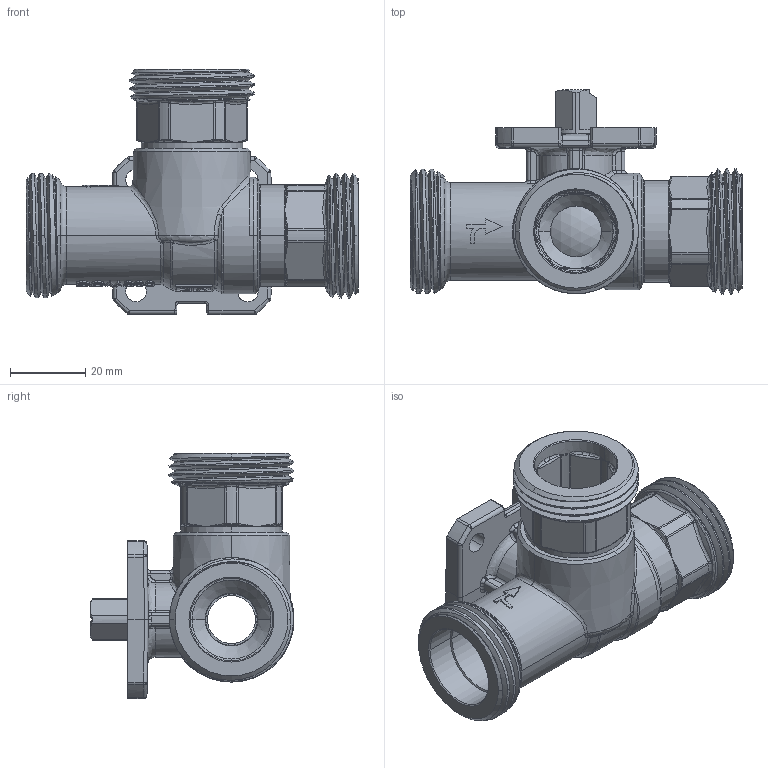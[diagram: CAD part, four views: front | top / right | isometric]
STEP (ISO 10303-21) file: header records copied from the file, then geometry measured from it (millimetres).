
FILE_DESCRIPTION((''),'2;1');
FILE_NAME('H988T1015_2314_SW0001','2015-05-15T',('61graziano'),('Vir spa'),'PRO/ENGINEER BY PARAMETRIC TECHNOLOGY CORPORATION, 2010280','PRO/ENGINEER BY PARAMETRIC TECHNOLOGY CORPORATION, 2010280','');
FILE_SCHEMA(('CONFIG_CONTROL_DESIGN'));
Products named in the file (1): H988T1015_2314_SW0001
Bounding box: 88.25 x 54.23 x 65.15 mm (x, y, z)
Volume: 54149.3 mm3; surface area: 31815.9 mm2
Topology: 1 solids, 1 shells, 1267 faces, 3085 edges, 1873 vertices
Faces by surface type: cylinder 293, bspline 272, plane 233, extrusion 179, torus 145, cone 106, sphere 39
Entity records: 56352 total; most frequent: CARTESIAN_POINT 29348, ORIENTED_EDGE 6170, DIRECTION 4730, EDGE_CURVE 3085, VERTEX_POINT 1873, AXIS2_PLACEMENT_3D 1847, B_SPLINE_CURVE_WITH_KNOTS 1376, EDGE_LOOP 1338
